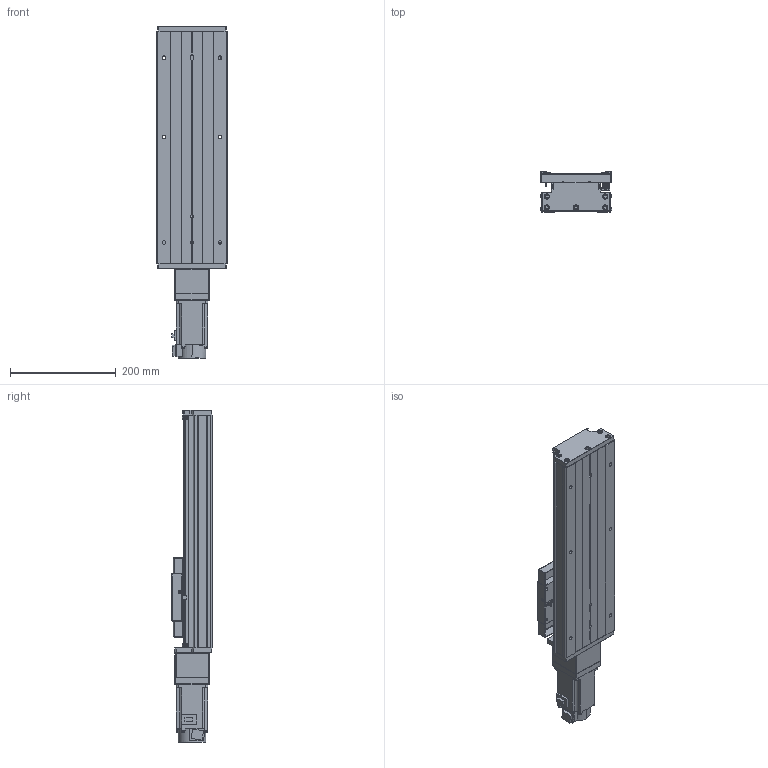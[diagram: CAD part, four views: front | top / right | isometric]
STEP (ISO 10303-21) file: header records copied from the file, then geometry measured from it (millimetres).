
FILE_DESCRIPTION (( 'STEP AP203' ), '1' );
FILE_NAME ('CTH130-250-BC-M40-C4.step', '2023-06-30T02:32:28', ( '微软用户' ), ( '微软中国' ), 'SwSTEP 2.0', 'SolidWorks 2020', '' );
FILE_SCHEMA (( 'CONFIG_CONTROL_DESIGN' ));
Length unit declared in the file: millimetre
Products named in the file (21): GTH14-001_250; CTHA60-017; す晦芛蹟隊 M3℅5; CTH130-002_GTH14-002; EE_SX911P_R; CTHA86-006-1_M40; GB T308.1-2013-6.35; CTHA60-016; CTHA86-013; GTH14-004; GBT 70.1-M3℅5; CTHA86-027-1; GTH14-005; GBT77-2000 M3×3; GBT 70.3-M3℅8; GB1155-6X6; CTH130-031; HG-KN43J-S100; GBT70.1 M5℅16; GBT 70.2-M3¡Á5_M3¡Á6; CTH130-250-BC-M40-C4
Assembly tree (59 placements, depth 2):
  CTH130-250-BC-M40-C4
    GTH14-001_250
    CTH130-002_GTH14-002
    GB T308.1-2013-6.35  x2
    GTH14-004
    GTH14-005
    GB1155-6X6  x2
    GBT70.1 M5℅16  x10
    CTHA60-017  x3
    EE_SX911P_R  x3
    CTHA60-016  x2
    GBT 70.1-M3℅5  x6
    GBT77-2000 M3×3  x6
    CTH130-031
    GBT 70.2-M3¡Á5_M3¡Á6  x8
    す晦芛蹟隊 M3℅5  x6
    CTHA86-006-1_M40
    CTHA86-013
    CTHA86-027-1
    GBT 70.3-M3℅8  x2
    HG-KN43J-S100
Bounding box: 135 x 76 x 628.7 mm (x, y, z)
Volume: 3046290.2 mm3; surface area: 524702.9 mm2
Topology: 62 solids, 62 shells, 2360 faces, 5633 edges, 3487 vertices
Faces by surface type: plane 1299, cylinder 610, cone 287, torus 120, sphere 24, bspline 20
Entity records: 43064 total; most frequent: CARTESIAN_POINT 9705, DIRECTION 6211, ORIENTED_EDGE 6166, EDGE_CURVE 3083, AXIS2_PLACEMENT_3D 2089, VECTOR 2033, LINE 2033, VERTEX_POINT 1947
